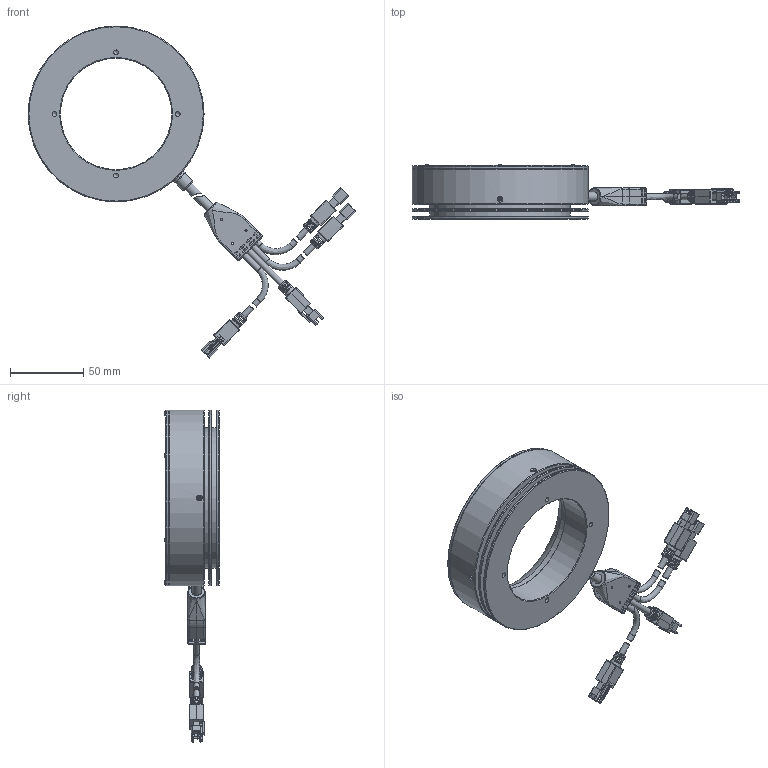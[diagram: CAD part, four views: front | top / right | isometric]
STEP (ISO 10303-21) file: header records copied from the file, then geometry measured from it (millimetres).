
FILE_DESCRIPTION (( 'STEP AP203' ), '1' );
FILE_NAME ('OPT-MSRIP120-X-V1.0尨砩芞.STEP', '2025-02-15T03:51:47', ( '' ), ( '' ), 'SwSTEP 2.0', 'SolidWorks 2016', '' );
FILE_SCHEMA (( 'CONFIG_CONTROL_DESIGN' ));
Products named in the file (1): OPT-MSRIP120-X-V1.0尨砩芞
Bounding box: 223.62 x 37 x 226.52 mm (x, y, z)
Surface area: 71415.3 mm2 (no closed solid volume)
Topology: 0 solids, 41 shells, 1069 faces, 2970 edges, 1927 vertices
Faces by surface type: plane 587, cylinder 339, cone 72, bspline 56, torus 15
Full cylindrical faces by diameter (mm): 1.1 x4, 1.25 x6, 1.4 x6, 1.5 x3, 1.6 x4, 1.8 x6, 2 x4, 2.4 x4, 2.6 x6, 3.3 x4, 4.1 x10, 5 x1, 6.4 x2, 7.5 x4, 8.6 x1, 9.3 x1, 9.8 x1, 76 x1, 78.2 x1, 79.6 x1, 80.142 x1, 96 x2, 120 x4
Entity records: 40114 total; most frequent: CARTESIAN_POINT 15033, ORIENTED_EDGE 5085, DIRECTION 4721, EDGE_CURVE 2726, VERTEX_POINT 1834, LINE 1703, VECTOR 1703, AXIS2_PLACEMENT_3D 1509
